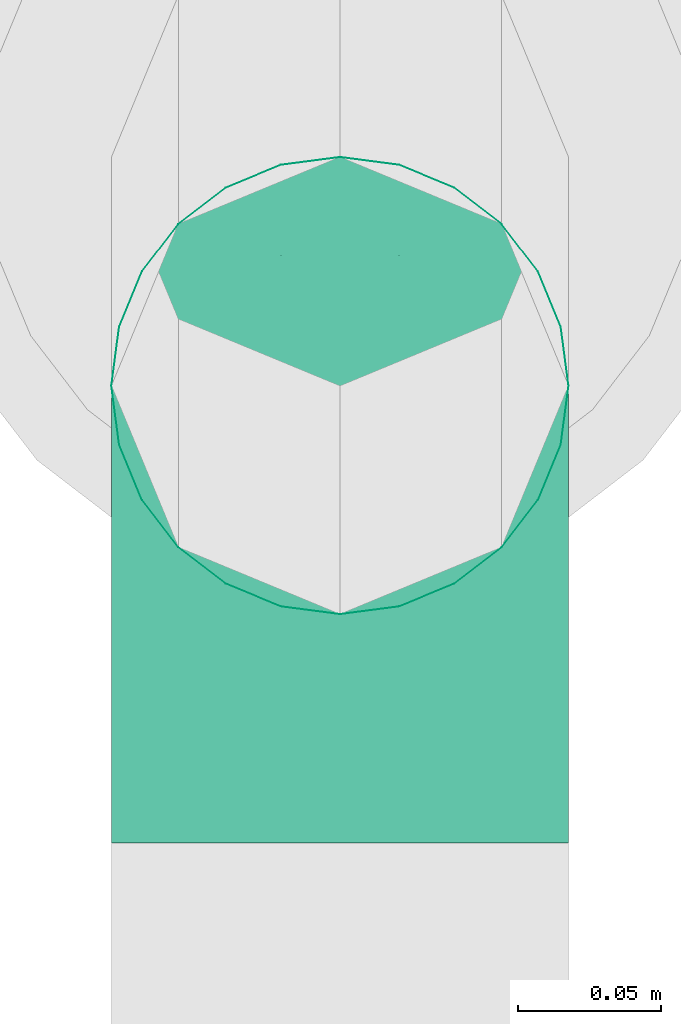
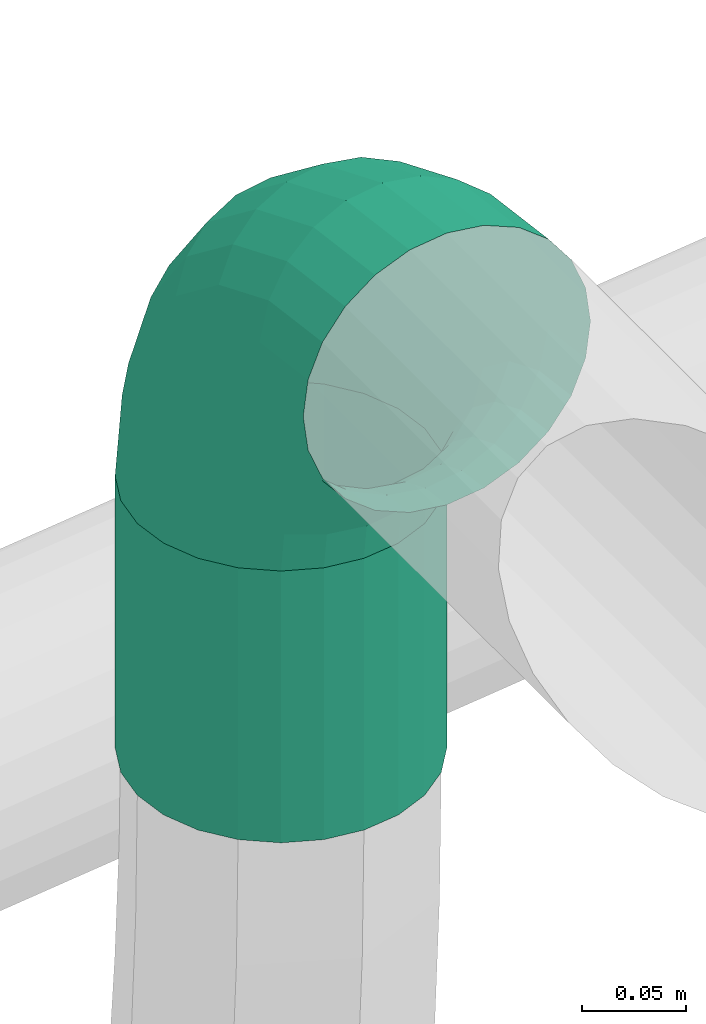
# One storey, part 49 of 374: 1 flow fitting, 1 flow segment.
"""IFC2X3 building model written with IfcOpenShell, lengths in metres."""

from ifc_helpers import new_model, si_unit, direction, origin, place, context, subcontext, project, spatial, open_shell, surface_model, source, transform, mapped, element, save


model = new_model("IFC2X3")

# Units and contexts
model_context = context("Model", 3, precision=1e-05, world=origin(), true_north=direction((-0.4480736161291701, 0.8939966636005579)))
body_context = subcontext(model_context, "Body", "Model", "MODEL_VIEW")
ifc_project = project(units=[si_unit("LENGTHUNIT", "METRE"), si_unit("AREAUNIT", "SQUARE_METRE"), si_unit("VOLUMEUNIT", "CUBIC_METRE"), si_unit("PLANEANGLEUNIT", "RADIAN"), si_unit("THERMODYNAMICTEMPERATUREUNIT", "KELVIN"), si_unit("MASSUNIT", "GRAM", prefix="KILO"), si_unit("TIMEUNIT", "SECOND")], contexts=[model_context])

# Site, building, storey
site_placement = place(None, origin())
site = spatial("IfcSite", under=ifc_project, at=site_placement, Name="Site 1", CompositionType="ELEMENT")
building_placement = place(site_placement, origin())
building = spatial("IfcBuilding", under=site, at=building_placement, Name="Undefined", CompositionType="ELEMENT")
storey_placement = place(building_placement, origin())
storey = spatial("IfcBuildingStorey", under=building, at=storey_placement, Name="Rez de chauss\x8ee", CompositionType="ELEMENT", Elevation=0.0)

# Flow fitting
shared_shape_1 = source(origin(), body_context, "Body", "SurfaceModel", [
    surface_model("IfcFaceBasedSurfaceModel", [(0.06265257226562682, -8.8817842e-16, 0.0), (0.062296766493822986, 0.02088115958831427, -7.105427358e-15), (0.0003558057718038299, 0.020881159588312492, 7.105427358e-15), (0.0, 0.0, 0.0), (-0.059474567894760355, 0.022956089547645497, -0.015896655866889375), (-0.06051773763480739, 0.002098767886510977, -0.01607928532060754), (-0.11311701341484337, 0.02696454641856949, -0.04660663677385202), (-0.11477645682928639, 0.006153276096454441, -0.04714207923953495), (-0.15691588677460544, 0.0326333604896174, -0.09003710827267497), (-0.15907851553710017, 0.01188721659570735, -0.09107150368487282), (-0.18788636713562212, 0.03957621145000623, -0.14322835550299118), (-0.1904048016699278, 0.01890983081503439, -0.14487384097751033), (-0.2039178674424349, 0.04731995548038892, -0.20255548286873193), (-0.20662048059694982, 0.026742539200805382, -0.20488255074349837), (0.061253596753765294, 0.04103889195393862, -0.0053597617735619), (0.0013989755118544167, 0.04103889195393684, -0.005359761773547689), (-0.05641614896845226, 0.04304393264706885, -0.02072097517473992), (-0.10825177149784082, 0.04691737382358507, -0.050396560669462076), (-0.15057538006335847, 0.05239524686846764, -0.09236417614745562), (-0.18050269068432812, 0.05910424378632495, -0.14376379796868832), (-0.19599420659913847, 0.06658715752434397, -0.20109262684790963), (0.05959415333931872, 0.05909948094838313, -0.01571402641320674), (0.003058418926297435, 0.05909948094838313, -0.01571402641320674), (-0.05155090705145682, 0.06099334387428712, -0.030223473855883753), (-0.10051228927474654, 0.06465200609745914, -0.058253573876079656), (-0.1404890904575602, 0.0698261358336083, -0.09789412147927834), (-0.16875695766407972, 0.0761631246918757, -0.14644367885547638), (-0.18338948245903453, 0.08323111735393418, -0.2005936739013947), (0.057431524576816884, 0.07383212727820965, -0.030357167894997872), (0.005221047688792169, 0.07383212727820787, -0.03035716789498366), (-0.0452104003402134, 0.07558110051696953, -0.04375657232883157), (-0.09042599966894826, 0.07895985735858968, -0.06964223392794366), (-0.12734438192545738, 0.08373814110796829, -0.10625008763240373), (-0.15344962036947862, 0.08959031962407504, -0.15108536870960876), (-0.16696268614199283, 0.0961175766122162, -0.20109262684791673), (0.054913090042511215, 0.0842328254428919, -0.048291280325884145), (0.007739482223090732, 0.08423282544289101, -0.04829128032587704), (-0.037826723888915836, 0.08581307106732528, -0.06039801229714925), (-0.07868026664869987, 0.08886587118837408, -0.08378642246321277), (-0.11203704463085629, 0.09318318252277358, -0.11686262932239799), (-0.13562384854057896, 0.09847078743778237, -0.1573725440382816), (-0.14783327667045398, 0.10436834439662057, -0.20255548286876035), (0.05221047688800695, 0.0895927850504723, -0.06829418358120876), (0.010442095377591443, 0.08959278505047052, -0.06829418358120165), (-0.029903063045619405, 0.09099196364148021, -0.07901370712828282), (-0.06607554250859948, 0.09369496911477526, -0.0997222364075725), (-0.0956102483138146, 0.0975175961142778, -0.12900851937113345), (-0.11649443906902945, 0.10219933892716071, -0.16487674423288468), (-0.12730489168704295, 0.1074211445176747, -0.2048825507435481), (0.04950786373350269, 0.08954673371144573, -0.08900271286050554), (0.013144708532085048, 0.08954673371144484, -0.08900271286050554), (-0.02197940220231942, 0.09076484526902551, -0.09833502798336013), (-0.05347081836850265, 0.09311805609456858, -0.11636367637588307), (-0.0791834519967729, 0.09644599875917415, -0.14186003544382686), (-0.09736502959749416, 0.10052187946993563, -0.17308657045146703), (-0.10677650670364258, 0.1050679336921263, -0.20791524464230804), (0.04698942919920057, 0.08409780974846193, -0.10900561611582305), (0.015663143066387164, 0.08409780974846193, -0.10900561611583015), (-0.014595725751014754, 0.08514719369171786, -0.11704525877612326), (-0.0417250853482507, 0.0871744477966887, -0.13257665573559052), (-0.06387611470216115, 0.09004141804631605, -0.15454136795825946), (-0.07953925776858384, 0.09355272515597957, -0.1814425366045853), (-0.08764709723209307, 0.09746907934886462, -0.21144689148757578), (0.04482680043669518, 0.0736173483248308, -0.12693972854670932), (0.017825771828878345, 0.0736173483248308, -0.12693972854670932), (-0.008255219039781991, 0.07452184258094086, -0.13386932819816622), (-0.03163879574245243, 0.0762691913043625, -0.14725628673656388), (-0.050731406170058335, 0.07874031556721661, -0.1661883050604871), (-0.06423192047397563, 0.08176681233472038, -0.18937519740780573), (-0.07122030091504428, 0.08514243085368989, -0.21523681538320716), (0.04316735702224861, 0.058819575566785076, -0.14158287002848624), (0.019485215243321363, 0.058819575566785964, -0.14158287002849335), (-0.0033899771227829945, 0.05961289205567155, -0.14766070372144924), (-0.02389931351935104, 0.06114546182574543, -0.15940217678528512), (-0.04064511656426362, 0.06331284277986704, -0.17600712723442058), (-0.052486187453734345, 0.06596733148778, -0.19634395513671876), (-0.05861557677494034, 0.06892802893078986, -0.2190267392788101), (0.04212418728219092, 0.040712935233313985, -0.15193713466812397), (0.020528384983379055, 0.040712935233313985, -0.15193713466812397), (-0.0003315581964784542, 0.041436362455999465, -0.15747952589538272), (-0.019034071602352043, 0.04283391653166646, -0.16818660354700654), (-0.03430460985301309, 0.04481035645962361, -0.1833286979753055), (-0.04510251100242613, 0.047230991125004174, -0.20187390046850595), (-0.05069191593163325, 0.04993085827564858, -0.22255838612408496), (0.04176838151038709, 0.02053136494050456, -0.15729689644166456), (0.020884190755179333, 0.02053136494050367, -0.15729689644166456), (0.0007116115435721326, 0.021230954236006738, -0.16265665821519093), (-0.017374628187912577, 0.022582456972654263, -0.17301092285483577), (-0.03214198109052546, 0.024493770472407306, -0.1876540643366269), (-0.042584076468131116, 0.026834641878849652, -0.20558817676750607), (-0.04798930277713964, 0.02944554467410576, -0.22559108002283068), (0.04212418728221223, -0.000349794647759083, -0.15729689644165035), (0.020528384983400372, -0.000349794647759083, -0.15729689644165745), (-0.0003315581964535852, 0.00037363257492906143, -0.1628392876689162), (-0.019034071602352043, 0.0017711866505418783, -0.17354636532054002), (-0.03430460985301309, 0.0037476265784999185, -0.18868845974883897), (-0.04510251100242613, 0.00616826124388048, -0.20723366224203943), (-0.05069191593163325, 0.008868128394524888, -0.22791814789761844), (0.04316735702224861, -0.020507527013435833, -0.15193713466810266), (0.019485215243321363, -0.020507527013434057, -0.15193713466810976), (-0.0033899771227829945, -0.019714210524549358, -0.15801496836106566), (-0.02389931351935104, -0.01818164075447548, -0.16975644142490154), (-0.04064511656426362, -0.01601425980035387, -0.186361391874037), (-0.052486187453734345, -0.013359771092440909, -0.20669821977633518), (-0.05861557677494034, -0.010399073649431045, -0.22938100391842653), (0.04482680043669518, -0.03856811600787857, -0.1415828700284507), (0.017825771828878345, -0.03856811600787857, -0.1415828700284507), (-0.008255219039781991, -0.03766362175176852, -0.1485124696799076), (-0.03163879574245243, -0.03591627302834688, -0.16189942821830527), (-0.050731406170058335, -0.03344514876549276, -0.1808314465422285), (-0.06423192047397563, -0.030418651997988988, -0.20401833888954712), (-0.07122030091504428, -0.027043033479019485, -0.22987995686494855), (0.04698942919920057, -0.05330076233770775, -0.12693972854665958), (0.015663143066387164, -0.05330076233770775, -0.12693972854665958), (-0.014595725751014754, -0.05225137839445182, -0.1349793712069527), (-0.0417250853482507, -0.05022412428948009, -0.15051076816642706), (-0.06387611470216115, -0.047357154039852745, -0.172475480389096), (-0.07953925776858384, -0.043845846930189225, -0.19937664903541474), (-0.08764709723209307, -0.03992949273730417, -0.2293810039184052), (0.04950786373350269, -0.06370146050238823, -0.10900561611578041), (0.013144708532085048, -0.06370146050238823, -0.10900561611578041), (-0.02197940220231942, -0.06248334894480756, -0.11833793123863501), (-0.05347081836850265, -0.06013013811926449, -0.13636657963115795), (-0.0791834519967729, -0.05680219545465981, -0.16186293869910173), (-0.09736502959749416, -0.05272631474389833, -0.1930894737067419), (-0.10677650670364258, -0.04818026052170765, -0.2279181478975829), (0.05221047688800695, -0.06906142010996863, -0.08900271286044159), (0.010442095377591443, -0.06906142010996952, -0.08900271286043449), (-0.029903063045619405, -0.06766224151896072, -0.09972223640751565), (-0.06607554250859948, -0.06495923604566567, -0.12043076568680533), (-0.0956102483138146, -0.06113660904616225, -0.14971704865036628), (-0.11649443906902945, -0.05645486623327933, -0.1855852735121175), (-0.12730489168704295, -0.05123306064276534, -0.22559108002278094), (0.054913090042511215, -0.06901536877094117, -0.06829418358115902), (0.007739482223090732, -0.06901536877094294, -0.06829418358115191), (-0.037826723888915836, -0.06743512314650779, -0.08040091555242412), (-0.07868026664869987, -0.06438232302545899, -0.10378932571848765), (-0.11203704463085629, -0.06006501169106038, -0.13686553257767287), (-0.13562384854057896, -0.0547774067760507, -0.17737544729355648), (-0.14783327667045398, -0.04887984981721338, -0.22255838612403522), (0.057431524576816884, -0.06356644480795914, -0.0482912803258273), (0.005221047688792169, -0.06356644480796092, -0.04829128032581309), (-0.0452104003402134, -0.061817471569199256, -0.0616906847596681), (-0.09042599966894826, -0.05843871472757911, -0.0875763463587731), (-0.12734438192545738, -0.05366043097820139, -0.12418420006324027), (-0.15344962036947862, -0.04780825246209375, -0.1690194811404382), (-0.16696268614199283, -0.041280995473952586, -0.21902673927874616), (0.05959415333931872, -0.05308598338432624, -0.030357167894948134), (0.003058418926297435, -0.05308598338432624, -0.030357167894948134), (-0.05155090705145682, -0.05119212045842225, -0.04486661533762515), (-0.10051228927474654, -0.04753345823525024, -0.07289671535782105), (-0.1404890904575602, -0.04235932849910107, -0.11253726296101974), (-0.16875695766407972, -0.03602233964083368, -0.16108682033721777), (-0.18338948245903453, -0.02895434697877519, -0.2152368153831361), (0.061253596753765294, -0.03828821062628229, -0.015714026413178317), (0.0013989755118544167, -0.03828821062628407, -0.015714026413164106), (-0.05641614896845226, -0.03628316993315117, -0.031075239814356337), (-0.10825177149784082, -0.03240972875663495, -0.06075082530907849), (-0.15057538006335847, -0.026931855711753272, -0.10271844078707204), (-0.18050269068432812, -0.02022285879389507, -0.15411806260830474), (-0.19599420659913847, -0.012739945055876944, -0.21144689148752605), (0.062296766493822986, -0.020181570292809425, -0.005359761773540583), (0.0003558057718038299, -0.020181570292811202, -0.0053597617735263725), (-0.059474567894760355, -0.018106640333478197, -0.021256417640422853), (-0.11311701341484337, -0.014098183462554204, -0.051966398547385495), (-0.15691588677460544, -0.00842936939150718, -0.09539687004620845), (-0.18788636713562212, -0.0014865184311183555, -0.14858811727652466), (-0.2039178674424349, 0.006257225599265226, -0.2079152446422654)], [open_shell([[[0, 1, 2, 3]], [[3, 2, 4, 5]], [[5, 4, 6, 7]], [[7, 6, 8, 9]], [[9, 8, 10, 11]], [[11, 10, 12, 13]], [[1, 14, 15, 2]], [[2, 15, 16, 4]], [[4, 16, 17, 6]], [[6, 17, 18, 8]], [[8, 18, 19, 10]], [[10, 19, 20, 12]], [[14, 21, 22, 15]], [[15, 22, 23, 16]], [[16, 23, 24, 17]], [[17, 24, 25, 18]], [[18, 25, 26, 19]], [[19, 26, 27, 20]], [[21, 28, 29, 22]], [[22, 29, 30, 23]], [[23, 30, 31, 24]], [[24, 31, 32, 25]], [[25, 32, 33, 26]], [[26, 33, 34, 27]], [[28, 35, 36, 29]], [[29, 36, 37, 30]], [[30, 37, 38, 31]], [[31, 38, 39, 32]], [[32, 39, 40, 33]], [[33, 40, 41, 34]], [[35, 42, 43, 36]], [[36, 43, 44, 37]], [[37, 44, 45, 38]], [[38, 45, 46, 39]], [[39, 46, 47, 40]], [[40, 47, 48, 41]], [[42, 49, 50, 43]], [[43, 50, 51, 44]], [[44, 51, 52, 45]], [[45, 52, 53, 46]], [[46, 53, 54, 47]], [[47, 54, 55, 48]], [[49, 56, 57, 50]], [[50, 57, 58, 51]], [[51, 58, 59, 52]], [[52, 59, 60, 53]], [[53, 60, 61, 54]], [[54, 61, 62, 55]], [[56, 63, 64, 57]], [[57, 64, 65, 58]], [[58, 65, 66, 59]], [[59, 66, 67, 60]], [[60, 67, 68, 61]], [[61, 68, 69, 62]], [[63, 70, 71, 64]], [[64, 71, 72, 65]], [[65, 72, 73, 66]], [[66, 73, 74, 67]], [[67, 74, 75, 68]], [[68, 75, 76, 69]], [[70, 77, 78, 71]], [[71, 78, 79, 72]], [[72, 79, 80, 73]], [[73, 80, 81, 74]], [[74, 81, 82, 75]], [[75, 82, 83, 76]], [[77, 84, 85, 78]], [[78, 85, 86, 79]], [[79, 86, 87, 80]], [[80, 87, 88, 81]], [[81, 88, 89, 82]], [[82, 89, 90, 83]], [[84, 91, 92, 85]], [[85, 92, 93, 86]], [[86, 93, 94, 87]], [[87, 94, 95, 88]], [[88, 95, 96, 89]], [[89, 96, 97, 90]], [[91, 98, 99, 92]], [[92, 99, 100, 93]], [[93, 100, 101, 94]], [[94, 101, 102, 95]], [[95, 102, 103, 96]], [[96, 103, 104, 97]], [[98, 105, 106, 99]], [[99, 106, 107, 100]], [[100, 107, 108, 101]], [[101, 108, 109, 102]], [[102, 109, 110, 103]], [[103, 110, 111, 104]], [[105, 112, 113, 106]], [[106, 113, 114, 107]], [[107, 114, 115, 108]], [[108, 115, 116, 109]], [[109, 116, 117, 110]], [[110, 117, 118, 111]], [[112, 119, 120, 113]], [[113, 120, 121, 114]], [[114, 121, 122, 115]], [[115, 122, 123, 116]], [[116, 123, 124, 117]], [[117, 124, 125, 118]], [[119, 126, 127, 120]], [[120, 127, 128, 121]], [[121, 128, 129, 122]], [[122, 129, 130, 123]], [[123, 130, 131, 124]], [[124, 131, 132, 125]], [[126, 133, 134, 127]], [[127, 134, 135, 128]], [[128, 135, 136, 129]], [[129, 136, 137, 130]], [[130, 137, 138, 131]], [[131, 138, 139, 132]], [[133, 140, 141, 134]], [[134, 141, 142, 135]], [[135, 142, 143, 136]], [[136, 143, 144, 137]], [[137, 144, 145, 138]], [[138, 145, 146, 139]], [[140, 147, 148, 141]], [[141, 148, 149, 142]], [[142, 149, 150, 143]], [[143, 150, 151, 144]], [[144, 151, 152, 145]], [[145, 152, 153, 146]], [[147, 154, 155, 148]], [[148, 155, 156, 149]], [[149, 156, 157, 150]], [[150, 157, 158, 151]], [[151, 158, 159, 152]], [[152, 159, 160, 153]], [[154, 161, 162, 155]], [[155, 162, 163, 156]], [[156, 163, 164, 157]], [[157, 164, 165, 158]], [[158, 165, 166, 159]], [[159, 166, 167, 160]], [[161, 0, 3, 162]], [[162, 3, 5, 163]], [[163, 5, 7, 164]], [[164, 7, 9, 165]], [[165, 9, 11, 166]], [[166, 11, 13, 167]]])]),
])
flow_fitting_placement = place(storey_placement, origin())
element("IfcFlowFitting", 1, at=flow_fitting_placement, inside=storey, Name="Coude", ObjectType="Coude", context=body_context, shape_type="MappedRepresentation", body=[
    mapped(shared_shape_1, transform((18.290000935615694, 26.021820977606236, 3.7021165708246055), x_axis=(0.0, 0.13052619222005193, -0.9914448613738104), y_axis=(-0.9915887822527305, -0.12832103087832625, -0.016893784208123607), z_axis=(-0.12942830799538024, 0.9831056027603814, 0.12942830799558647))),
])

# Flow segment
shared_shape_2 = source(origin(), body_context, "Body", "SurfaceModel", [
    surface_model("IfcFaceBasedSurfaceModel", [(0.0, 0.020884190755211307, 0.0), (0.0, 0.0, 0.0), (0.16000000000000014, 0.0, -4.4408921e-16), (0.16000000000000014, 0.0208841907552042, -4.4408921e-16), (0.0, -0.020172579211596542, -0.005405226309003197), (0.16000000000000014, -0.020172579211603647, -0.005405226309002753), (0.0, -0.03825881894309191, -0.015847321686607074), (0.16000000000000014, -0.03825881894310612, -0.015847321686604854), (0.0, -0.05302617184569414, -0.0306146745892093), (0.16000000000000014, -0.05302617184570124, -0.03061467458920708), (0.0, -0.06346826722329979, -0.04870091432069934), (0.16000000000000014, -0.0634682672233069, -0.04870091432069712), (0.0, -0.06887349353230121, -0.06887349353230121), (0.16000000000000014, -0.06887349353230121, -0.06887349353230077), (0.0, -0.06887349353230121, -0.08975768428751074), (0.16000000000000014, -0.06887349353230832, -0.08975768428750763), (0.0, -0.06346826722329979, -0.10993026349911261), (0.16000000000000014, -0.0634682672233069, -0.10993026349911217), (0.0, -0.05302617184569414, -0.12801650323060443), (0.16000000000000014, -0.05302617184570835, -0.1280165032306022), (0.0, -0.038258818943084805, -0.14278385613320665), (0.16000000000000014, -0.03825881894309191, -0.14278385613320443), (0.0, -0.020172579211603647, -0.15322595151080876), (0.16000000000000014, -0.020172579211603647, -0.1532259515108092), (0.0, 7.105427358e-15, -0.15863117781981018), (0.16000000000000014, -7.105427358e-15, -0.15863117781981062), (0.0, 0.020884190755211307, -0.15863117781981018), (0.16000000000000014, 0.0208841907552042, -0.15863117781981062), (0.0, 0.04105676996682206, -0.15322595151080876), (0.16000000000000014, 0.04105676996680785, -0.1532259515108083), (0.0, 0.05914300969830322, -0.1427838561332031), (0.16000000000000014, 0.05914300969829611, -0.14278385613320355), (0.0, 0.07391036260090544, -0.12801650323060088), (0.16000000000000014, 0.07391036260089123, -0.1280165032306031), (0.0, 0.0843524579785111, -0.10993026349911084), (0.16000000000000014, 0.08435245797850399, -0.10993026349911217), (0.0, 0.08975768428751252, -0.08975768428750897), (0.16000000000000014, 0.08975768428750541, -0.08975768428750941), (0.0, 0.08975768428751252, -0.06887349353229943), (0.16000000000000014, 0.08975768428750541, -0.06887349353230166), (0.0, 0.0843524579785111, -0.048700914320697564), (0.16000000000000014, 0.08435245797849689, -0.04870091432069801), (0.0, 0.07391036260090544, -0.030614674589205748), (0.16000000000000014, 0.07391036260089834, -0.03061467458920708), (0.0, 0.05914300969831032, -0.015847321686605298), (0.16000000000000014, 0.05914300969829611, -0.01584732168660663), (0.0, 0.04105676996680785, -0.005405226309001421), (0.16000000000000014, 0.04105676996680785, -0.005405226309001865)], [open_shell([[[0, 1, 2, 3]], [[1, 4, 5, 2]], [[4, 6, 7, 5]], [[6, 8, 9, 7]], [[8, 10, 11, 9]], [[10, 12, 13, 11]], [[12, 14, 15, 13]], [[14, 16, 17, 15]], [[16, 18, 19, 17]], [[18, 20, 21, 19]], [[20, 22, 23, 21]], [[22, 24, 25, 23]], [[24, 26, 27, 25]], [[26, 28, 29, 27]], [[28, 30, 31, 29]], [[30, 32, 33, 31]], [[32, 34, 35, 33]], [[34, 36, 37, 35]], [[36, 38, 39, 37]], [[38, 40, 41, 39]], [[40, 42, 43, 41]], [[42, 44, 45, 43]], [[44, 46, 47, 45]], [[46, 0, 3, 47]]])]),
])
flow_segment_placement = place(storey_placement, origin())
element("IfcFlowSegment", 2, at=flow_segment_placement, inside=storey, Name="Tube", ObjectType="Tube", context=body_context, shape_type="MappedRepresentation", body=[
    mapped(shared_shape_2, transform((18.310706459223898, 25.872724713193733, 3.4800000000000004), x_axis=(0.0, 0.0, 1.0), y_axis=(-0.9914448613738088, -0.13052619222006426, 0.0), z_axis=(0.13052619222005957, -0.9914448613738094, 0.0))),
])

save(model, "model.ifc")
